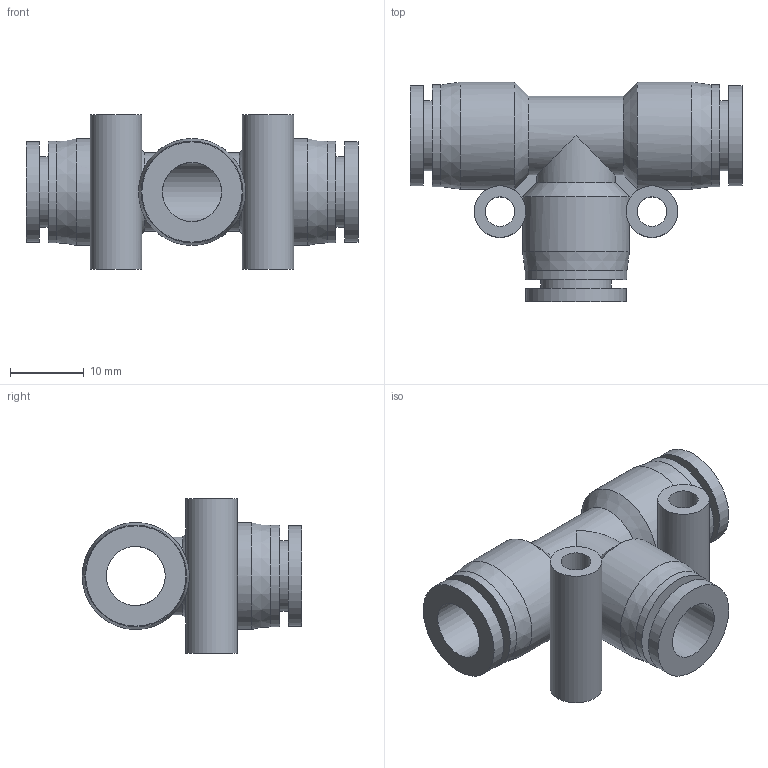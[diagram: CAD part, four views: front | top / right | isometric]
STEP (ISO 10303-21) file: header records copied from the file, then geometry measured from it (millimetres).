
FILE_DESCRIPTION((''),'2;1');
FILE_NAME('S:\UTecnico\ArchivioUT\Speciali Clienti\Speciali KONFIT\Plastica\RP\RP 55\RP550008.stp','2012-05-15T09:19:31',('UT5'),(''),'Autodesk Inventor 2012','Autodesk Inventor 2012','');
FILE_SCHEMA(('AUTOMOTIVE_DESIGN { 1 0 10303 214 1 1 1 1 }'));
Length unit declared in the file: millimetre
Products named in the file (1): RP550008
Bounding box: 45 x 29.75 x 21 mm (x, y, z)
Volume: 6368.4 mm3; surface area: 6345.5 mm2
Topology: 1 solids, 1 shells, 45 faces, 108 edges, 72 vertices
Faces by surface type: cylinder 21, plane 17, cone 7
Full cylindrical faces by diameter (mm): 4 x2, 7 x2, 8 x2, 9.5 x3, 13.6 x3, 13.8 x3, 14.5 x3
Entity records: 1388 total; most frequent: CARTESIAN_POINT 370, DIRECTION 208, ORIENTED_EDGE 156, AXIS2_PLACEMENT_3D 96, EDGE_LOOP 82, EDGE_CURVE 78, VERTEX_POINT 64, FACE_OUTER_BOUND 45
